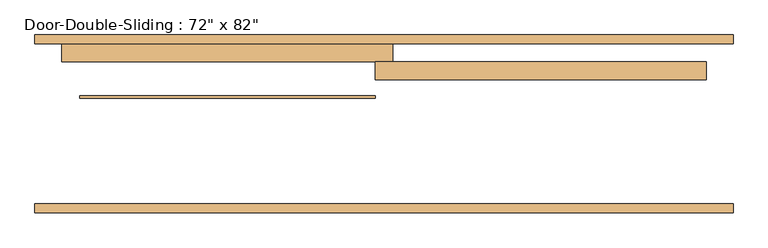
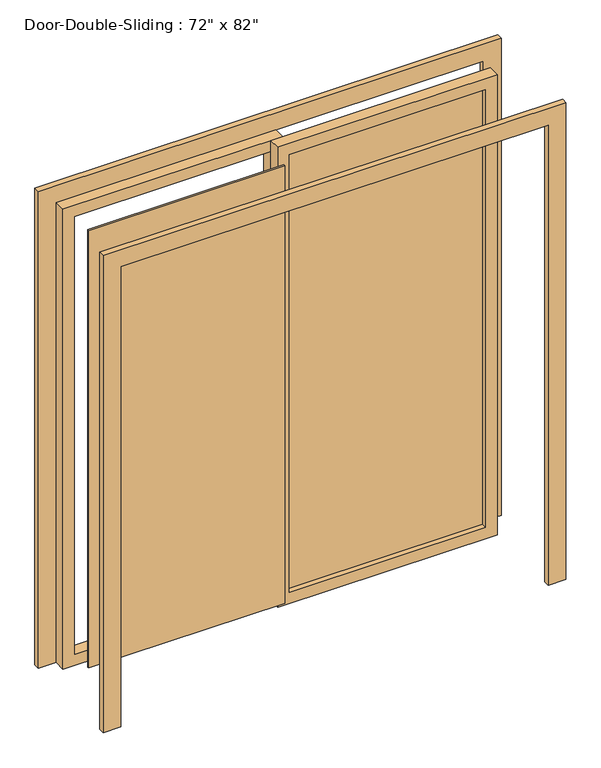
"""IFC4 building model written with IfcOpenShell, lengths in millimetres: door geometry."""

from ifc_helpers import new_model, si_unit, frame, origin, place, context, project, spatial, polyline, outline, extrude, source, transform, mapped, element, save


def door_82242614(model_context):
    return source(origin(), model_context, "Body", "SweptSolid", [
        extrude(outline(polyline([(0.0, -990.6), (0.0, -914.4), (2082.8, -914.4), (2082.8, 914.4), (0.0, 914.4), (0.0, 990.6), (2159.0, 990.6), (2159.0, -990.6), (0.0, -990.6)])), frame((0.0, -125.4125, 0.0), z_axis=(0.0, 1.0, 0.0), x_axis=(0.0, 0.0, 1.0)), (0.0, 0.0, 1.0), 25.4),
        extrude(outline(polyline([(0.0, 990.6), (2159.0, 990.6), (2159.0, -990.6), (0.0, -990.6), (0.0, -914.4), (2082.8, -914.4), (2082.8, 914.4), (0.0, 914.4), (0.0, 990.6)])), frame((0.0, 354.0125, 0.0), z_axis=(0.0, 1.0, 0.0), x_axis=(0.0, 0.0, 1.0)), (0.0, 0.0, 1.0), 25.4),
        extrude(outline(polyline([(2082.8, -25.4), (0.0, -25.4), (0.0, 914.4), (2082.8, 914.4), (2082.8, -25.4)]), holes=[polyline([(2032.0, 25.4), (2032.0, 863.6), (50.8, 863.6), (50.8, 25.4), (2032.0, 25.4)])]), frame((0.0, 252.4125, 0.0), z_axis=(0.0, 1.0, 0.0), x_axis=(0.0, 0.0, 1.0)), (0.0, 0.0, 1.0), 50.8),
        extrude(outline(polyline([(2082.8, 25.4), (2082.8, -914.4), (0.0, -914.4), (0.0, 25.4), (2082.8, 25.4)]), holes=[polyline([(2032.0, -25.4), (50.8, -25.4), (50.8, -863.6), (2032.0, -863.6), (2032.0, -25.4)])]), frame((0.0, 303.2125, 0.0), z_axis=(0.0, 1.0, 0.0), x_axis=(0.0, 0.0, 1.0)), (0.0, 0.0, 1.0), 50.8),
        extrude(outline(polyline([(25.4, 280.9875), (863.6, 280.9875), (863.6, 274.6375), (25.4, 274.6375), (25.4, 280.9875)])), frame((0.0, 0.0, 50.8), z_axis=(0.0, 0.0, 1.0), x_axis=(1.0, 0.0, 0.0)), (0.0, 0.0, 1.0), 1981.2),
        extrude(outline(polyline([(-25.4, 200.025), (-863.6, 200.025), (-863.6, 206.375), (-25.4, 206.375), (-25.4, 200.025)])), frame((0.0, 0.0, 50.8), z_axis=(0.0, 0.0, 1.0), x_axis=(1.0, 0.0, 0.0)), (0.0, 0.0, 1.0), 1981.2),
    ])


if __name__ == "__main__":
    model = new_model("IFC4")
    model_context = context("Model", 3, world=origin())
    ifc_project = project(units=[si_unit("LENGTHUNIT", "METRE", prefix="MILLI")], contexts=[model_context])
    site = spatial("IfcSite", under=ifc_project)
    building = spatial("IfcBuilding", under=site)
    placement = place(None, origin())
    door_shape = door_82242614(model_context)
    element("IfcDoor", 1, ObjectType="Door-Double-Sliding : 72\" x 82\"", at=placement, inside=building, context=model_context, shape_type="MappedRepresentation", body=[
        mapped(door_shape, transform((0.0, 0.0, 0.0), x_axis=(1.0, 0.0, 0.0), y_axis=(0.0, 1.0, 0.0), z_axis=(0.0, 0.0, 1.0))),
    ])
    save(model, "model.ifc")
